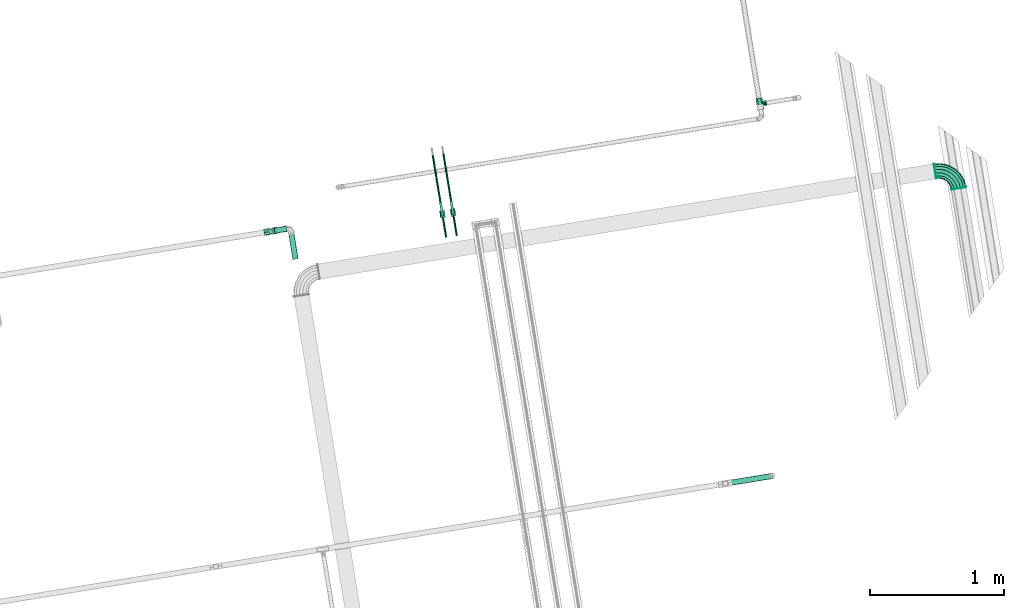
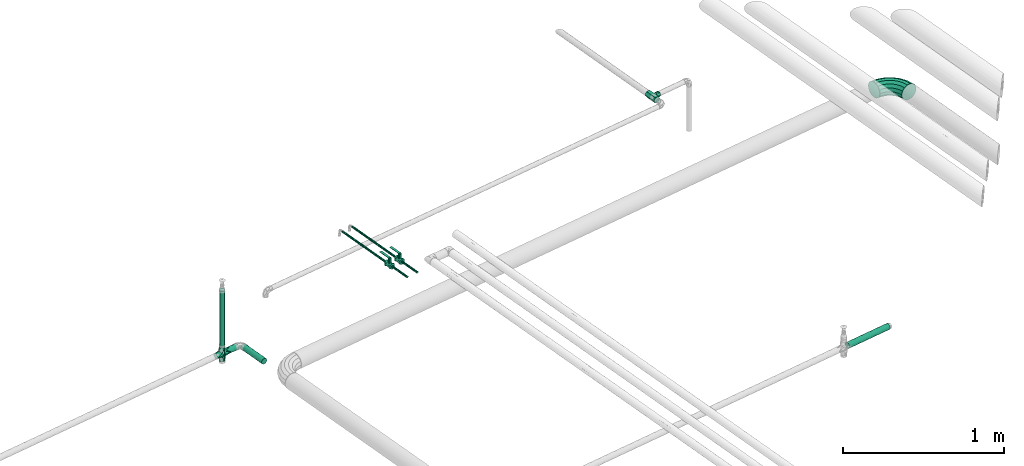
# One storey, part 25 of 46: 8 flow segments, 5 flow fittings, 2 flow controllers.
"""IFC2X3 building model written with IfcOpenShell, lengths in millimetres."""

from ifc_helpers import new_model, entity, si_unit, converted_unit, derived_unit, direction, frame, frame_2d, origin, origin_with_axes, origin_2d_with_axis, place, context, subcontext, project, spatial, polyline, rectangle, circle, outline, extrude, faceted_brep, source, transform, mapped, material, type_object, element, save


model = new_model("IFC2X3")

# Units and contexts
model_context = context("Model", 3, precision=0.01, world=origin(), true_north=direction((6.12323399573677e-17, 1.0)))
plan_context = context("Plan", 3, precision=1e-05, world=origin_with_axes())
body_context = subcontext(model_context, "Body", "Model", "MODEL_VIEW")
ifc_project = project(units=[converted_unit("PLANEANGLEUNIT", "DEGREE", entity("IfcPositiveLengthMeasure", 0.0174532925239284), si_unit("PLANEANGLEUNIT", "RADIAN"), dimensions=[0, 0, 0, 0, 0, 0, 0]), si_unit("AREAUNIT", "SQUARE_METRE"), si_unit("LENGTHUNIT", "METRE", prefix="MILLI"), si_unit("MASSUNIT", "GRAM", prefix="KILO"), si_unit("POWERUNIT", "WATT"), si_unit("PRESSUREUNIT", "PASCAL", prefix="KILO"), si_unit("FORCEUNIT", "NEWTON", prefix="KILO"), si_unit("ELECTRICVOLTAGEUNIT", "VOLT"), si_unit("ELECTRICCURRENTUNIT", "AMPERE"), si_unit("THERMODYNAMICTEMPERATUREUNIT", "DEGREE_CELSIUS"), si_unit("TIMEUNIT", "SECOND"), si_unit("VOLUMEUNIT", "CUBIC_METRE"), derived_unit("LINEARVELOCITYUNIT", [(si_unit("LENGTHUNIT", "METRE"), 1), (si_unit("TIMEUNIT", "SECOND"), -1)]), derived_unit("VOLUMETRICFLOWRATEUNIT", [(si_unit("VOLUMEUNIT", "CUBIC_METRE"), 1), (si_unit("TIMEUNIT", "SECOND"), -1)]), derived_unit("THERMALTRANSMITTANCEUNIT", [(si_unit("POWERUNIT", "WATT"), 1), (si_unit("THERMODYNAMICTEMPERATUREUNIT", "KELVIN"), -1), (si_unit("AREAUNIT", "SQUARE_METRE"), -1)]), derived_unit("SOUNDPRESSUREUNIT", [(si_unit("PRESSUREUNIT", "PASCAL"), 1)])], contexts=[model_context, plan_context])

# Site, building, storey
site_placement = place(None, frame((-3.09682673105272e-06, 1.93776733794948e-05, 0.0), z_axis=(0.0, 0.0, 1.0), x_axis=(-0.160806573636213, 0.986985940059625, 0.0)))
site = spatial("IfcSite", under=ifc_project, at=site_placement, Name="Default", CompositionType="ELEMENT")
building_placement = place(site_placement, frame((0.0, 0.0, 0.0), z_axis=(0.0, 0.0, 1.0), x_axis=(1.0, -2.77555756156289e-17, 0.0)))
building = spatial("IfcBuilding", under=site, at=building_placement, Name="Bygning (endres i Project Information)", CompositionType="ELEMENT")
storey_placement = place(building_placement, frame((0.0, 0.0, 51360.0000000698), z_axis=(0.0, 0.0, 1.0), x_axis=(1.0, -2.77555756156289e-17, 0.0)))
storey = spatial("IfcBuildingStorey", under=building, at=storey_placement, Name="H01-Nivå D+0,36", CompositionType="ELEMENT", Elevation=51360.0000000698)

# Flow controllers
ifc_material_1 = material(Name="3200.002 Retur")
valve_type = type_object("IfcValveType", Name="BALL-VALVE-THREAD:ball-valve-thead-DN15", PredefinedType="NOTDEFINED", material=ifc_material_1)
shared_shape_1 = source(origin(), body_context, "Body", "SweptSolid", [
    extrude(outline(polyline([(-11.1300001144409, -19.2777256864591), (11.1300001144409, -19.2777256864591), (22.2600002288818, 0.0), (11.1300001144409, 19.2777256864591), (-11.1300001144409, 19.2777256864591), (-22.2600002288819, 0.0), (-11.1300001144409, -19.2777256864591)])), frame((-27.0, 0.0, 0.0), z_axis=(1.0, 0.0, 0.0), x_axis=(0.0, 0.0, -1.0)), (0.0, 0.0, 1.0), 12.0),
    extrude(outline(polyline([(-11.1300001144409, -19.2777256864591), (11.1300001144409, -19.2777256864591), (22.2600002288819, 0.0), (11.1300001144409, 19.2777256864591), (-11.1300001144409, 19.2777256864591), (-22.2600002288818, 0.0), (-11.1300001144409, -19.2777256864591)])), frame((15.0, 0.0, 0.0), z_axis=(1.0, 0.0, 0.0), x_axis=(0.0, -0.866025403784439, 0.5)), (0.0, 0.0, 1.0), 12.0),
    extrude(circle(Radius=18.5499992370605, at=frame_2d((0.0, -2.58494233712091e-14), x_axis=(1.0, 0.0))), frame((-15.0, 0.0, 0.0), z_axis=(1.0, 0.0, 0.0), x_axis=(0.0, 1.0, 0.0)), (0.0, 0.0, 1.0), 30.0),
    extrude(circle(Radius=10.5, at=frame_2d((5.28743715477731e-16, -1.23002813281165e-14), x_axis=(1.0, 0.0))), frame((2.70000076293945, 0.0, 0.0)), (0.0, 0.0, 1.0), 50.0),
    extrude(rectangle(XDim=17.0, YDim=90.0, at=origin_2d_with_axis()), frame((-42.2999992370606, 0.0, 50.0), z_axis=(0.0, 0.0, 1.0), x_axis=(0.0, -1.0, 0.0)), (0.0, 0.0, 1.0), 3.0),
])
for number, where, z_axis, x_axis, name in (
    (1, (1008607.44768722, -353260.062917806, 3449.99999993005), (0.0, 0.0, 1.0), (-1.0, 2.77555756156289e-17, 0.0), "BALL-VALVE-THREAD:ball-valve-thead-DN15"),
    (2, (1008607.44768722, -353340.062917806, 3449.99999993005), (0.0, 0.0, 1.0), (-1.0, 2.77555756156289e-17, 0.0), "BALL-VALVE-THREAD:ball-valve-thead-DN15"),
):
    element("IfcFlowController", number, at=place(storey_placement, frame(where, z_axis=z_axis, x_axis=x_axis)), inside=storey, type_object=valve_type, material=ifc_material_1, Name=name, ObjectType="BALL-VALVE-THREAD:ball-valve-thead-DN15", context=body_context, shape_type="MappedRepresentation", body=[
        mapped(shared_shape_1, transform((0.0, 0.0, 0.0), scale=1.0)),
    ])

# Flow fittings
ifc_material_2 = material(Name="3320.001")
pipe_fitting_type_1 = type_object("IfcPipeFittingType", Name="Bend sveist:EN 10253-1 S235 3D ISO", PredefinedType="NOTDEFINED", material=ifc_material_2)
shared_shape_2 = source(origin(), body_context, "Body", "Brep", [
    faceted_brep([(-98.6091776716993, -49.9893123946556, 0.0), (-100.073997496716, -44.5225303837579, 24.7964556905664), (-153.0, -51.4903708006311, 24.7964556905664), (-153.0, -57.1500000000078, 0.0), (-104.178331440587, -29.2049475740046, 44.6816692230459), (-153.0, -35.6324421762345, 44.6816692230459), (-110.109265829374, -7.07039909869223, 55.7171301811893), (-153.0, -12.7170713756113, 55.7171301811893), (-116.692106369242, 17.4970962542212, 55.7171301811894), (-153.0, 12.7170713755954, 55.7171301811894), (-122.62304075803, 39.6316447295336, 44.6816692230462), (-153.0, 35.6324421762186, 44.6816692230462), (-126.7273747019, 54.9492275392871, 24.7964556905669), (-153.0, 51.4903708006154, 24.7964556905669), (-128.192194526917, 60.416009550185, 0.0), (-153.0, 57.1499999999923, 0.0), (-126.7273747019, 54.9492275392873, -24.7964556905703), (-153.0, 51.4903708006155, -24.7964556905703), (-122.62304075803, 39.6316447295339, -44.6816692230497), (-153.0, 35.6324421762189, -44.6816692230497), (-116.692106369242, 17.4970962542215, -55.7171301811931), (-153.0, 12.7170713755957, -55.7171301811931), (-110.109265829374, -7.07039909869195, -55.7171301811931), (-153.0, -12.717071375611, -55.7171301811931), (-104.178331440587, -29.2049475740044, -44.6816692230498), (-153.0, -35.6324421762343, -44.6816692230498), (-100.073997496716, -44.5225303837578, -24.7964556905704), (-153.0, -51.4903708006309, -24.7964556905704), (-47.924999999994, -28.9952386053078, 0.0), (-50.7548145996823, -24.0938559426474, 24.7964556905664), (-58.6837789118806, -10.3604869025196, 44.6816692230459), (-70.1414643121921, 9.48480634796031, 55.7171301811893), (-82.8585356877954, 31.5114200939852, 55.7171301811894), (-94.316221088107, 51.3567133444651, 44.6816692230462), (-102.245185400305, 65.0900823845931, 24.7964556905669), (-105.074999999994, 69.9914650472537, 0.0), (-102.245185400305, 65.0900823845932, -24.7964556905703), (-94.3162210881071, 51.3567133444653, -44.6816692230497), (-82.8585356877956, 31.5114200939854, -55.7171301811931), (-70.1414643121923, 9.48480634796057, -55.7171301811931), (-58.6837789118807, -10.3604869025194, -44.6816692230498), (-50.7548145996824, -24.0938559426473, -24.7964556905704), (-4.40150993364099, 4.40150993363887, 0.0), (-8.40347211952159, 8.40347211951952, 24.7964556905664), (-19.6167209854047, 19.6167209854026, 44.6816692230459), (-35.8203350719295, 35.8203350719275, 55.7171301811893), (-53.8049898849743, 53.8049898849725, 55.7171301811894), (-70.0086039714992, 70.0086039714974, 44.6816692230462), (-81.2218528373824, 81.2218528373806, 24.7964556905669), (-85.2238150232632, 85.2238150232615, 0.0), (-81.2218528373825, 81.2218528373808, -24.7964556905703), (-70.0086039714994, 70.0086039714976, -44.6816692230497), (-53.8049898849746, 53.8049898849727, -55.7171301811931), (-35.8203350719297, 35.8203350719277, -55.7171301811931), (-19.6167209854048, 19.6167209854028, -44.6816692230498), (-8.4034721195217, 8.40347211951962, -24.7964556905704), (28.9952386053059, 47.9249999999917, 0.0), (24.0938559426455, 50.7548145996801, 24.7964556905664), (10.3604869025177, 58.6837789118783, 44.6816692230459), (-9.4848063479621, 70.14146431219, 55.7171301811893), (-31.5114200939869, 82.8585356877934, 55.7171301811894), (-51.3567133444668, 94.3162210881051, 44.6816692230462), (-65.0900823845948, 102.245185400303, 24.7964556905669), (-69.9914650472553, 105.074999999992, 0.0), (-65.0900823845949, 102.245185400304, -24.7964556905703), (-51.356713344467, 94.3162210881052, -44.6816692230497), (-31.5114200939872, 82.8585356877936, -55.7171301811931), (-9.48480634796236, 70.1414643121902, -55.7171301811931), (10.3604869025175, 58.6837789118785, -44.6816692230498), (24.0938559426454, 50.7548145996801, -24.7964556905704), (49.989312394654, 98.6091776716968, 0.0), (44.5225303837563, 100.073997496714, 24.7964556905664), (29.204947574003, 104.178331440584, 44.6816692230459), (7.07039909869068, 110.109265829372, 55.7171301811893), (-17.4970962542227, 116.69210636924, 55.7171301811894), (-39.6316447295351, 122.623040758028, 44.6816692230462), (-54.9492275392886, 126.727374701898, 24.7964556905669), (-60.4160095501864, 128.192194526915, 0.0), (-54.9492275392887, 126.727374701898, -24.7964556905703), (-39.6316447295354, 122.623040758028, -44.6816692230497), (-17.497096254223, 116.69210636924, -55.7171301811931), (7.07039909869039, 110.109265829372, -55.7171301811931), (29.2049475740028, 104.178331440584, -44.6816692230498), (44.5225303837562, 100.073997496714, -24.7964556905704), (57.1500000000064, 153.0, 0.0), (51.4903708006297, 153.0, 24.7964556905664), (35.6324421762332, 153.0, 44.6816692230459), (12.71707137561, 153.0, 55.7171301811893), (-12.7170713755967, 153.0, 55.7171301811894), (-35.63244217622, 153.0, 44.6816692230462), (-51.4903708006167, 153.0, 24.7964556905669), (-57.1499999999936, 153.0, 0.0), (-51.4903708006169, 153.0, -24.7964556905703), (-35.6324421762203, 153.0, -44.6816692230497), (-12.717071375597, 153.0, -55.7171301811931), (12.7170713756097, 153.0, -55.7171301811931), (35.6324421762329, 153.0, -44.6816692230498), (51.4903708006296, 153.0, -24.7964556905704)], [[[0, 1, 2, 3]], [[1, 4, 5, 2]], [[4, 6, 7, 5]], [[6, 8, 9, 7]], [[8, 10, 11, 9]], [[10, 12, 13, 11]], [[12, 14, 15, 13]], [[14, 16, 17, 15]], [[16, 18, 19, 17]], [[18, 20, 21, 19]], [[20, 22, 23, 21]], [[22, 24, 25, 23]], [[24, 26, 27, 25]], [[26, 0, 3, 27]], [[28, 29, 1, 0]], [[29, 30, 4, 1]], [[30, 31, 6, 4]], [[31, 32, 8, 6]], [[32, 33, 10, 8]], [[33, 34, 12, 10]], [[34, 35, 14, 12]], [[35, 36, 16, 14]], [[36, 37, 18, 16]], [[37, 38, 20, 18]], [[38, 39, 22, 20]], [[39, 40, 24, 22]], [[40, 41, 26, 24]], [[41, 28, 0, 26]], [[42, 43, 29, 28]], [[43, 44, 30, 29]], [[44, 45, 31, 30]], [[45, 46, 32, 31]], [[46, 47, 33, 32]], [[47, 48, 34, 33]], [[48, 49, 35, 34]], [[49, 50, 36, 35]], [[50, 51, 37, 36]], [[51, 52, 38, 37]], [[52, 53, 39, 38]], [[53, 54, 40, 39]], [[54, 55, 41, 40]], [[55, 42, 28, 41]], [[56, 57, 43, 42]], [[57, 58, 44, 43]], [[58, 59, 45, 44]], [[59, 60, 46, 45]], [[60, 61, 47, 46]], [[61, 62, 48, 47]], [[62, 63, 49, 48]], [[63, 64, 50, 49]], [[64, 65, 51, 50]], [[65, 66, 52, 51]], [[66, 67, 53, 52]], [[67, 68, 54, 53]], [[68, 69, 55, 54]], [[69, 56, 42, 55]], [[70, 71, 57, 56]], [[71, 72, 58, 57]], [[72, 73, 59, 58]], [[73, 74, 60, 59]], [[74, 75, 61, 60]], [[75, 76, 62, 61]], [[76, 77, 63, 62]], [[77, 78, 64, 63]], [[78, 79, 65, 64]], [[79, 80, 66, 65]], [[80, 81, 67, 66]], [[81, 82, 68, 67]], [[82, 83, 69, 68]], [[83, 70, 56, 69]], [[84, 85, 71, 70]], [[85, 86, 72, 71]], [[86, 87, 73, 72]], [[87, 88, 74, 73]], [[88, 89, 75, 74]], [[89, 90, 76, 75]], [[90, 91, 77, 76]], [[91, 92, 78, 77]], [[92, 93, 79, 78]], [[93, 94, 80, 79]], [[94, 95, 81, 80]], [[95, 96, 82, 81]], [[96, 97, 83, 82]], [[97, 84, 70, 83]], [[3, 2, 5, 7, 9, 11, 13, 15, 17, 19, 21, 23, 25, 27]], [[97, 96, 95, 94, 93, 92, 91, 90, 89, 88, 87, 86, 85, 84]]]),
])
flow_fitting_1_placement = place(storey_placement, frame((1008333.45605167, -357087.211474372, 3299.95000040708), z_axis=(0.0, 0.0, 1.0), x_axis=(1.0, -2.77555756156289e-17, 0.0)))
element("IfcFlowFitting", 3, at=flow_fitting_1_placement, inside=storey, type_object=pipe_fitting_type_1, material=ifc_material_2, Name="Bend sveist:EN 10253-1 S235 3D ISO", ObjectType="Bend sveist:EN 10253-1 S235 3D ISO", context=body_context, shape_type="MappedRepresentation", body=[
    mapped(shared_shape_2, transform((0.0, 0.0, 0.0), scale=1.0)),
])
ifc_material_3 = material(Name="<Unnamed>")
pipe_fitting_type_2 = type_object("IfcPipeFittingType", Name="Sveis:Sveis", PredefinedType="NOTDEFINED", material=ifc_material_3)
shared_shape_3 = source(origin(), body_context, "Body", "SweptSolid", [
    extrude(circle(Radius=57.15, at=frame_2d((-2.60051383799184e-15, -9.23283724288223e-14), x_axis=(1.0, 0.0))), origin(), (0.0, 0.0, 1.0), 2.0),
])
for number, where, z_axis, x_axis in (
    (4, (1008180.45605167, -357087.211474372, 3299.95000040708), (-1.0, 2.77555756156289e-17, 0.0), (-2.77555756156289e-17, -1.0, 0.0)),
    (5, (1008333.45605167, -356934.211474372, 3299.95000040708), (2.77555756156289e-17, 1.0, 0.0), (0.0, 0.0, 1.0)),
):
    element("IfcFlowFitting", number, at=place(storey_placement, frame(where, z_axis=z_axis, x_axis=x_axis)), inside=storey, type_object=pipe_fitting_type_2, material=ifc_material_3, Name="Sveis:Sveis", ObjectType="Sveis:Sveis", context=body_context, shape_type="MappedRepresentation", body=[
        mapped(shared_shape_3, transform((0.0, 0.0, 0.0), scale=1.0)),
    ])
pipe_fitting_type_3 = type_object("IfcPipeFittingType", Name="RS_53_PIF_UN_Tee-Reduced-EN10241_MC_gen:RS_53_PIF_UN_Tee-Reduced-EN10241_MC_gen", PredefinedType="NOTDEFINED", material=ifc_material_2)
shared_shape_4 = source(origin(), body_context, "Body", "Brep", [
    faceted_brep([(44.0, 24.4999999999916, 0.0), (44.0, 18.3749999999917, 10.6088111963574), (44.0, 12.2499999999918, 21.2176223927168), (44.0, 0.0, 21.2176223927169), (44.0, -12.2500000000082, 21.217622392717), (44.0, -18.3750000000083, 10.6088111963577), (44.0, -24.5000000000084, 0.0), (44.0, -21.6281924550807, -4.97411657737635), (44.0, -18.3750000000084, -10.6088111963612), (44.0, -12.2500000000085, -21.2176223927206), (44.0, 0.0, -21.2176223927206), (44.0, 12.2499999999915, -21.2176223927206), (44.0, 18.3749999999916, -10.6088111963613), (-44.0, -12.2500000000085, -21.2176223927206), (-44.0, -18.3750000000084, -10.6088111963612), (-44.0, -24.5000000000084, 0.0), (-44.0, -21.6281923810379, 4.97411670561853), (-44.0, -18.3750000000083, 10.6088111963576), (-44.0, -12.2500000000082, 21.217622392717), (-44.0, 0.0, 21.2176223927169), (-44.0, 12.2499999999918, 21.2176223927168), (-44.0, 18.7563847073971, 9.94823350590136), (-44.0, 24.4999999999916, 0.0), (-44.0, 18.3749999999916, -10.6088111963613), (-44.0, 12.2499999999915, -21.2176223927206), (-44.0, 0.0, -21.2176223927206), (-8.07289668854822, -19.7195683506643, 9.70917342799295), (3.60420662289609, -14.9391367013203, 19.4183468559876), (15.7135516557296, -22.1097841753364, 4.85458671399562), (-19.7499999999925, -24.5000000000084, 0.0), (11.6771033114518, -19.7195683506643, 9.70917342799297), (19.7500000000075, -24.5000000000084, 0.0), (-15.715142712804, -22.1101683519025, -4.85429113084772), (-3.61057085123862, -14.9406734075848, -19.4171645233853), (-11.6802854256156, -19.7203367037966, -9.70858226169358), (8.06971457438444, -19.7203367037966, -9.70858226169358), (9.87500000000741, -51.0, -17.1040017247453), (14.8125000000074, -51.0, -8.55200086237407), (19.7500000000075, -51.0, 0.0), (14.8125000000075, -51.0, 8.55200086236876), (9.87500000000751, -51.0, 17.1040017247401), (0.0, -51.0, 17.1040017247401), (-9.87499999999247, -51.0, 17.1040017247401), (-14.8124999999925, -51.0, 8.55200086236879), (-19.7499999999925, -51.0, 0.0), (-14.8124999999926, -51.0, -8.55200086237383), (-9.87499999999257, -51.0, -17.1040017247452), (0.0, -51.0, -17.1040017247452)], [[[0, 1, 2, 3, 4, 5, 6, 7, 8, 9, 10, 11, 12]], [[13, 14, 15, 16, 17, 18, 19, 20, 21, 22, 23, 24, 25]], [[1, 0, 22, 21, 20, 2]], [[2, 20, 19, 3]], [[26, 17, 16]], [[18, 27, 19]], [[28, 6, 5]], [[29, 16, 15]], [[5, 27, 30, 28]], [[5, 4, 27]], [[27, 17, 26]], [[17, 27, 18]], [[26, 16, 29]], [[6, 28, 31]], [[19, 27, 3]], [[4, 3, 27]], [[32, 15, 14]], [[14, 33, 34, 32]], [[31, 7, 6]], [[35, 8, 7]], [[8, 33, 9]], [[33, 8, 35]], [[15, 32, 29]], [[24, 23, 22, 0, 12, 11]], [[25, 24, 11, 10]], [[14, 13, 33]], [[13, 25, 33]], [[35, 7, 31]], [[10, 33, 25]], [[10, 9, 33]], [[36, 37, 38, 39, 40, 41, 42, 43, 44, 45, 46, 47]], [[29, 45, 44]], [[34, 46, 45]], [[35, 36, 47]], [[33, 46, 34]], [[37, 36, 35]], [[45, 29, 32, 34]], [[31, 37, 35]], [[37, 31, 38]], [[47, 46, 33]], [[35, 47, 33]], [[31, 39, 38]], [[30, 40, 39]], [[26, 42, 41]], [[27, 40, 30]], [[43, 42, 26]], [[39, 31, 28, 30]], [[29, 43, 26]], [[43, 29, 44]], [[41, 40, 27]], [[26, 41, 27]]]),
])
flow_fitting_2_placement = place(storey_placement, frame((1009037.43704419, -355726.047207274, 3400.0), z_axis=(0.0, 0.0, 1.0), x_axis=(1.0, -2.77555756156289e-17, 0.0)))
element("IfcFlowFitting", 6, at=flow_fitting_2_placement, inside=storey, type_object=pipe_fitting_type_3, material=ifc_material_2, Name="RS_53_PIF_UN_Tee-Reduced-EN10241_MC_gen:RS_53_PIF_UN_Tee-Reduced-EN10241_MC_gen", ObjectType="RS_53_PIF_UN_Tee-Reduced-EN10241_MC_gen:RS_53_PIF_UN_Tee-Reduced-EN10241_MC_gen", context=body_context, shape_type="MappedRepresentation", body=[
    mapped(shared_shape_4, transform((0.0, 0.0, 0.0), scale=1.0)),
])
pipe_fitting_type_4 = type_object("IfcPipeFittingType", Name="RS_53_PIF_UN_Cross-EN10241_MC_gen:RS_53_PIF_UN_Cross-EN10241_MC_gen", PredefinedType="NOTDEFINED", material=ifc_material_2)
shared_shape_5 = source(origin(), body_context, "Body", "Brep", [
    faceted_brep([(51.0, 12.2499999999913, -12.2500000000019), (51.0, 0.0, -24.5000000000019), (15.8118687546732, 15.8118687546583, -18.714561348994), (24.5000000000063, 24.4999999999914, 0.0), (51.0, 24.4999999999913, 0.0), (51.0, 19.2143723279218, -5.28562767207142), (-24.4999999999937, 24.4999999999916, 0.0), (-51.0, 18.3749999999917, -6.12500000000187), (-51.0, 24.4999999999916, 0.0), (20.1559343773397, 20.1559343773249, -9.35728067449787), (0.0, 0.0, -24.5000000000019), (-15.8118687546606, 15.8118687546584, -18.7145613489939), (-51.0, 0.0, -24.5000000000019), (24.5000000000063, -24.5000000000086, 0.0), (51.0, -18.3750000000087, -6.12500000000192), (51.0, -24.5000000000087, 0.0), (15.8118687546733, -15.8118687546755, -18.7145613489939), (51.0, -12.2500000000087, -12.2500000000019), (20.1559343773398, -20.1559343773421, -9.35728067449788), (51.0, -12.2500000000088, 12.2499999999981), (51.0, 0.0, 24.4999999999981), (15.8118687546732, -15.8118687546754, 18.7145613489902), (20.1559343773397, -20.155934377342, 9.35728067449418), (51.0, -19.2143724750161, 5.28562752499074), (0.0, 0.0, 24.4999999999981), (-15.8118687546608, -15.8118687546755, 18.7145613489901), (-51.0, 0.0, 24.4999999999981), (-24.4999999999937, -24.5000000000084, 0.0), (-51.0, -18.3750000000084, 6.12499999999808), (-51.0, -24.5000000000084, 0.0), (51.0, 18.3749999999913, 6.12499999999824), (-51.0, 19.2143723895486, 5.28562761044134), (20.1559343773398, 20.1559343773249, 9.35728067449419), (15.8118687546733, 15.8118687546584, 18.7145613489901), (51.0, 12.2499999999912, 12.2499999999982), (-15.8118687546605, 15.8118687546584, 18.7145613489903), (-12.2499999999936, -51.0, -12.2500000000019), (0.0, -51.0, -24.5000000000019), (12.2500000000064, -51.0, -12.2500000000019), (19.2143723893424, -51.0, -5.28562761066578), (24.5000000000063, -51.0, 0.0), (18.3750000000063, -51.0, 6.12499999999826), (12.2500000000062, -51.0, 12.2499999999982), (0.0, -51.0, 24.4999999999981), (-12.2499999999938, -51.0, 12.2499999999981), (-19.2143725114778, -51.0, 5.28562748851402), (-24.4999999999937, -51.0, 0.0), (-20.1559343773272, -20.155934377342, 9.35728067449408), (0.0, 51.0, 24.4999999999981), (-18.3749999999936, 51.0, 6.12499999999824), (-24.4999999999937, 51.0, 0.0), (24.5000000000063, 51.0, 0.0), (19.2143725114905, 51.0, 5.28562748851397), (18.3750000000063, 51.0, -6.12500000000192), (0.0, 51.0, -24.5000000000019), (-19.1158956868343, -19.115895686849, -10.1450468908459), (-13.7317913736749, -13.7317913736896, -20.2900937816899), (12.2500000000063, 51.0, -12.2500000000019), (-12.2499999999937, 51.0, -12.2500000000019), (-19.2143723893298, 51.0, -5.28562761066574), (-12.2499999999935, 51.0, 12.2499999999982), (12.2500000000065, 51.0, 12.2499999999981), (-20.1559343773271, 20.155934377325, 9.35728067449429), (-20.1559343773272, 20.155934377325, -9.35728067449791), (-51.0, -12.2500000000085, 12.2499999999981), (-51.0, 12.2499999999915, 12.2499999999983), (-51.0, 12.2499999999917, -12.2500000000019), (-51.0, -12.2500000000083, -12.2500000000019)], [[[0, 1, 2]], [[3, 4, 5]], [[6, 7, 8]], [[9, 3, 5]], [[2, 9, 0]], [[1, 10, 2]], [[11, 10, 12]], [[0, 9, 5]], [[13, 14, 15]], [[16, 1, 17]], [[10, 1, 16]], [[18, 16, 17]], [[18, 17, 14]], [[14, 13, 18]], [[19, 20, 21]], [[22, 13, 23]], [[21, 22, 19]], [[20, 24, 21]], [[25, 24, 26]], [[13, 15, 23]], [[27, 28, 29]], [[3, 30, 4]], [[6, 8, 31]], [[32, 33, 34]], [[33, 20, 34]], [[24, 20, 33]], [[35, 26, 24]], [[30, 3, 32]], [[32, 34, 30]], [[19, 22, 23]], [[36, 37, 38, 39, 40, 41, 42, 43, 44, 45, 46]], [[44, 43, 25]], [[47, 27, 45]], [[25, 47, 44]], [[43, 24, 25]], [[24, 48, 35]], [[27, 46, 45]], [[6, 49, 50]], [[13, 41, 40]], [[3, 51, 52]], [[22, 21, 42]], [[21, 43, 42]], [[24, 43, 21]], [[48, 24, 33]], [[41, 13, 22]], [[22, 42, 41]], [[44, 47, 45]], [[38, 37, 16]], [[13, 40, 39]], [[3, 53, 51]], [[18, 13, 39]], [[16, 18, 38]], [[37, 10, 16]], [[10, 54, 2]], [[38, 18, 39]], [[46, 55, 36]], [[56, 37, 36]], [[10, 37, 56]], [[55, 56, 36]], [[55, 46, 27]], [[53, 57, 54, 58, 59, 50, 49, 60, 48, 61, 52, 51]], [[61, 48, 33]], [[32, 3, 52]], [[33, 32, 61]], [[62, 35, 60]], [[35, 48, 60]], [[49, 6, 62]], [[62, 60, 49]], [[61, 32, 52]], [[58, 54, 11]], [[6, 50, 59]], [[63, 6, 59]], [[11, 63, 58]], [[54, 10, 11]], [[58, 63, 59]], [[2, 54, 57]], [[9, 2, 57]], [[9, 57, 53]], [[53, 3, 9]], [[29, 28, 64, 26, 65, 31, 8, 7, 66, 12, 67]], [[14, 17, 1, 0, 5, 4, 30, 34, 20, 19, 23, 15]], [[47, 64, 28]], [[25, 26, 64]], [[28, 27, 47]], [[35, 62, 65]], [[62, 6, 31]], [[65, 26, 35]], [[65, 62, 31]], [[47, 25, 64]], [[63, 66, 7]], [[7, 6, 63]], [[63, 11, 66]], [[67, 55, 29]], [[11, 12, 66]], [[55, 27, 29]], [[67, 12, 56]], [[56, 12, 10]], [[67, 56, 55]]]),
])
flow_fitting_3_placement = place(storey_placement, frame((1008686.77221849, -351978.631006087, 3300.00269175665), z_axis=(1.0, -2.77555756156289e-17, 0.0), x_axis=(0.0, 0.0, 1.0)))
element("IfcFlowFitting", 7, at=flow_fitting_3_placement, inside=storey, type_object=pipe_fitting_type_4, material=ifc_material_2, Name="RS_53_PIF_UN_Cross-EN10241_MC_gen:RS_53_PIF_UN_Cross-EN10241_MC_gen", ObjectType="RS_53_PIF_UN_Cross-EN10241_MC_gen:RS_53_PIF_UN_Cross-EN10241_MC_gen", context=body_context, shape_type="MappedRepresentation", body=[
    mapped(shared_shape_5, transform((0.0, 0.0, 0.0), scale=1.0)),
])

# Flow segments
pipe_segment_type_1 = type_object("IfcPipeSegmentType", Name="Pipe Types:Stålrør sveist og gjenget", PredefinedType="NOTDEFINED", material=ifc_material_2)
flow_segment_1_placement = place(storey_placement, frame((0.0, 0.0, 0.0), z_axis=(0.0, 0.0, 1.0), x_axis=(1.0, -2.77555756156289e-17, 0.0)))
element("IfcFlowSegment", 8, at=flow_segment_1_placement, inside=storey, type_object=pipe_segment_type_1, Name="Pipe Types:Stålrør sveist og gjenget", ObjectType="Pipe Types:Stålrør sveist og gjenget", context=body_context, shape_type="SweptSolid", body=[
    extrude(circle(Radius=21.2000007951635, at=origin_2d_with_axis()), frame((1008453.56675303, -352126.942889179, 3300.0), z_axis=(1.0, 0.0, 0.0), x_axis=(0.0, -1.0, 0.0)), (0.0, 0.0, 1.0), 206.705465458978),
])
flow_segment_2_placement = place(storey_placement, frame((0.0, 0.0, 0.0), z_axis=(0.0, 0.0, 1.0), x_axis=(1.0, -2.77555756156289e-17, 0.0)))
element("IfcFlowSegment", 9, at=flow_segment_2_placement, inside=storey, type_object=pipe_segment_type_1, Name="Pipe Types:Stålrør sveist og gjenget", ObjectType="Pipe Types:Stålrør sveist og gjenget", context=body_context, shape_type="SweptSolid", body=[
    extrude(circle(Radius=21.2000007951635, at=origin_2d_with_axis()), frame((1008686.77221849, -352097.342889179, 3300.0), z_axis=(0.0, 1.0, 0.0), x_axis=(1.0, 0.0, 0.0)), (0.0, 0.0, 1.0), 89.111883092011),
])
flow_segment_3_placement = place(storey_placement, frame((0.0, 0.0, 0.0), z_axis=(0.0, 0.0, 1.0), x_axis=(1.0, -2.77555756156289e-17, 0.0)))
element("IfcFlowSegment", 10, at=flow_segment_3_placement, inside=storey, type_object=pipe_segment_type_1, Name="Pipe Types:Stålrør sveist og gjenget", ObjectType="Pipe Types:Stålrør sveist og gjenget", context=body_context, shape_type="SweptSolid", body=[
    extrude(circle(Radius=16.8500004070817, at=origin_2d_with_axis()), frame((1008686.77221849, -351978.631006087, 3348.26935842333), z_axis=(0.0, 0.0, 1.0), x_axis=(-1.0, 0.0, 0.0)), (0.0, 0.0, 1.0), 436.730641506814),
])
flow_segment_4_placement = place(storey_placement, frame((0.0, 0.0, 0.0), z_axis=(0.0, 0.0, 1.0), x_axis=(1.0, -2.77555756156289e-17, 0.0)))
element("IfcFlowSegment", 11, at=flow_segment_4_placement, inside=storey, type_object=pipe_segment_type_1, Name="Pipe Types:Stålrør sveist og gjenget", ObjectType="Pipe Types:Stålrør sveist og gjenget", context=body_context, shape_type="SweptSolid", body=[
    extrude(circle(Radius=21.2000007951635, at=frame_2d((4.15820977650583e-10, 0.0), x_axis=(1.0, 0.0))), frame((1006288.36764383, -355374.859006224, 3300.0), z_axis=(0.0, 1.0, 0.0), x_axis=(-1.0, 0.0, 0.0)), (0.0, 0.0, 1.0), 327.929811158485),
])
ifc_material_4 = material(Name="3200.003 Tur")
pipe_segment_type_2 = type_object("IfcPipeSegmentType", Name="Pipe Types:Pressfittingssystem MM", PredefinedType="NOTDEFINED", material=ifc_material_4)
flow_segment_5_placement = place(storey_placement, frame((0.0, 0.0, 0.0), z_axis=(0.0, 0.0, 1.0), x_axis=(1.0, -2.77555756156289e-17, 0.0)))
element("IfcFlowSegment", 12, at=flow_segment_5_placement, inside=storey, type_object=pipe_segment_type_2, Name="Pipe Types:Pressfittingssystem MM", ObjectType="Pipe Types:Pressfittingssystem MM", context=body_context, shape_type="SweptSolid", body=[
    extrude(circle(Radius=7.5000000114, at=origin_2d_with_axis()), frame((1008634.44768722, -353340.062917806, 3449.99999993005), z_axis=(1.0, 0.0, 0.0), x_axis=(0.0, 1.0, 0.0)), (0.0, 0.0, 1.0), 436.919955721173),
])
flow_segment_6_placement = place(storey_placement, frame((0.0, 0.0, 0.0), z_axis=(0.0, 0.0, 1.0), x_axis=(1.0, -2.77555756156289e-17, 0.0)))
element("IfcFlowSegment", 13, at=flow_segment_6_placement, inside=storey, type_object=pipe_segment_type_2, Name="Pipe Types:Pressfittingssystem MM", ObjectType="Pipe Types:Pressfittingssystem MM", context=body_context, shape_type="SweptSolid", body=[
    extrude(circle(Radius=7.5000000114, at=origin_2d_with_axis()), frame((1008634.44768722, -353260.062917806, 3449.99999993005), z_axis=(1.0, 0.0, 0.0), x_axis=(0.0, 1.0, 0.0)), (0.0, 0.0, 1.0), 436.919955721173),
])
flow_segment_7_placement = place(storey_placement, frame((0.0, 0.0, 0.0), z_axis=(0.0, 0.0, 1.0), x_axis=(1.0, -2.77555756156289e-17, 0.0)))
element("IfcFlowSegment", 14, at=flow_segment_7_placement, inside=storey, type_object=pipe_segment_type_2, Name="Pipe Types:Pressfittingssystem MM", ObjectType="Pipe Types:Pressfittingssystem MM", context=body_context, shape_type="SweptSolid", body=[
    extrude(circle(Radius=7.5000000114, at=frame_2d((0.0, -8.66293703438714e-12), x_axis=(1.0, 0.0))), frame((1008431.15230879, -353260.062917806, 3449.99999993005), z_axis=(1.0, 0.0, 0.0), x_axis=(0.0, 1.0, 0.0)), (0.0, 0.0, 1.0), 149.295378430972),
])
flow_segment_8_placement = place(storey_placement, frame((0.0, 0.0, 0.0), z_axis=(0.0, 0.0, 1.0), x_axis=(1.0, -2.77555756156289e-17, 0.0)))
element("IfcFlowSegment", 15, at=flow_segment_8_placement, inside=storey, type_object=pipe_segment_type_2, Name="Pipe Types:Pressfittingssystem MM", ObjectType="Pipe Types:Pressfittingssystem MM", context=body_context, shape_type="SweptSolid", body=[
    extrude(circle(Radius=7.5000000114, at=frame_2d((0.0, -1.73258740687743e-11), x_axis=(1.0, 0.0))), frame((1008431.15230879, -353340.062917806, 3449.99999993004), z_axis=(1.0, 0.0, 0.0), x_axis=(0.0, 1.0, 0.0)), (0.0, 0.0, 1.0), 149.295378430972),
])

save(model, "model.ifc")
